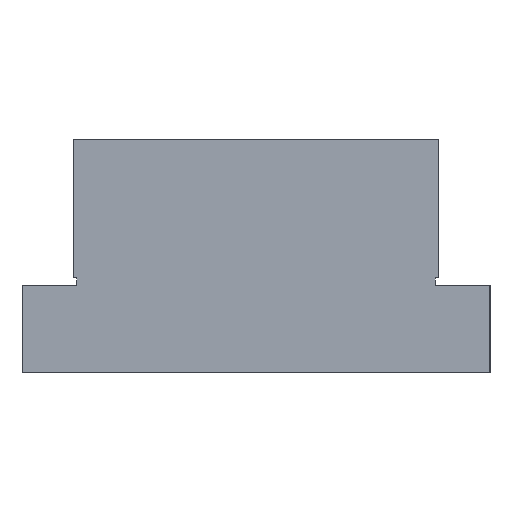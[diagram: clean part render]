
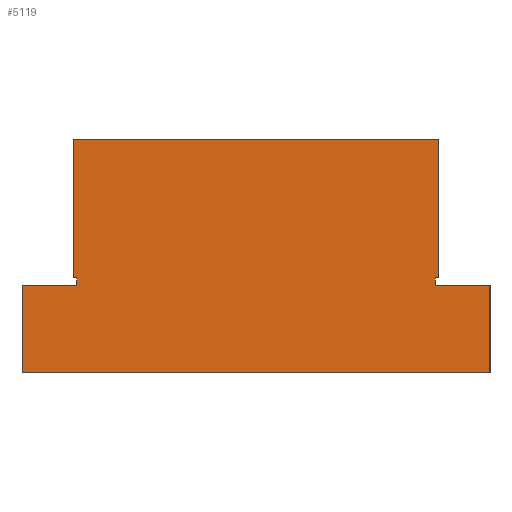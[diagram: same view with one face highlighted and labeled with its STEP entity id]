
A CAD part, left-side view. The second image highlights one B-rep face of the part: STEP entity #5119.
In plain terms, the highlighted planar face has unit normal (-1, 0, 0).
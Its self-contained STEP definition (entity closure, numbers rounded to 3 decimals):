
#19 = CARTESIAN_POINT ( 'NONE',  ( 0., -12.5, 6.5 ) ) ;
#246 = CARTESIAN_POINT ( 'NONE',  ( 0., -12.25, 6. ) ) ;
#320 = CARTESIAN_POINT ( 'NONE',  ( 0., 12.25, 6. ) ) ;
#323 = CARTESIAN_POINT ( 'NONE',  ( 0., 12.5, 0. ) ) ;
#713 = CARTESIAN_POINT ( 'NONE',  ( 0., 16., 0. ) ) ;
#737 = ORIENTED_EDGE ( 'NONE', *, *, #6420, .T. ) ;
#827 = EDGE_CURVE ( 'NONE', #1035, #7745, #8516, .T. ) ;
#832 = VECTOR ( 'NONE', #4642, 1000. ) ;
#885 = CARTESIAN_POINT ( 'NONE',  ( 0., -12.5, 16. ) ) ;
#996 = VERTEX_POINT ( 'NONE', #246 ) ;
#1035 = VERTEX_POINT ( 'NONE', #9297 ) ;
#1209 = LINE ( 'NONE', #3594, #10512 ) ;
#1346 = CARTESIAN_POINT ( 'NONE',  ( 0., 16., 6. ) ) ;
#1461 = DIRECTION ( 'NONE',  ( 0., 0., 1. ) ) ;
#1729 = VECTOR ( 'NONE', #5929, 1000. ) ;
#1824 = CARTESIAN_POINT ( 'NONE',  ( 0., -69.859, 6. ) ) ;
#1844 = ORIENTED_EDGE ( 'NONE', *, *, #2634, .F. ) ;
#2174 = CARTESIAN_POINT ( 'NONE',  ( 0., -16., 0. ) ) ;
#2267 = DIRECTION ( 'NONE',  ( 0., 1., 0. ) ) ;
#2277 = EDGE_CURVE ( 'NONE', #996, #5724, #5948, .T. ) ;
#2448 = LINE ( 'NONE', #1824, #4769 ) ;
#2529 = EDGE_LOOP ( 'NONE', ( #4038, #3561, #2537, #2723, #9264, #2550, #9720, #9187, #10082, #8311, #1844, #737 ) ) ;
#2537 = ORIENTED_EDGE ( 'NONE', *, *, #827, .F. ) ;
#2550 = ORIENTED_EDGE ( 'NONE', *, *, #3529, .T. ) ;
#2572 = LINE ( 'NONE', #19, #9423 ) ;
#2628 = DIRECTION ( 'NONE',  ( 0., -1., 0. ) ) ;
#2634 = EDGE_CURVE ( 'NONE', #6972, #5475, #1209, .T. ) ;
#2723 = ORIENTED_EDGE ( 'NONE', *, *, #6876, .T. ) ;
#2777 = CARTESIAN_POINT ( 'NONE',  ( 0., 12.5, 0. ) ) ;
#2918 = CARTESIAN_POINT ( 'NONE',  ( 0., -12.5, 6.5 ) ) ;
#2942 = DIRECTION ( 'NONE',  ( 0., 0., -1. ) ) ;
#2955 = AXIS2_PLACEMENT_3D ( 'NONE', #2777, #6360, #2942 ) ;
#3077 = VERTEX_POINT ( 'NONE', #885 ) ;
#3221 = VERTEX_POINT ( 'NONE', #7487 ) ;
#3319 = EDGE_CURVE ( 'NONE', #5724, #6211, #2572, .T. ) ;
#3446 = LINE ( 'NONE', #10399, #9920 ) ;
#3529 = EDGE_CURVE ( 'NONE', #4446, #996, #2448, .T. ) ;
#3561 = ORIENTED_EDGE ( 'NONE', *, *, #10788, .T. ) ;
#3594 = CARTESIAN_POINT ( 'NONE',  ( 0., 12.5, 0. ) ) ;
#4038 = ORIENTED_EDGE ( 'NONE', *, *, #6028, .T. ) ;
#4165 = LINE ( 'NONE', #7649, #1729 ) ;
#4180 = DIRECTION ( 'NONE',  ( 0., 0., 1. ) ) ;
#4446 = VERTEX_POINT ( 'NONE', #5926 ) ;
#4642 = DIRECTION ( 'NONE',  ( 0., 0., -1. ) ) ;
#4769 = VECTOR ( 'NONE', #5072, 1000. ) ;
#4813 = DIRECTION ( 'NONE',  ( 0., -1., 0. ) ) ;
#5023 = VECTOR ( 'NONE', #4180, 1000. ) ;
#5072 = DIRECTION ( 'NONE',  ( 0., 1., 0. ) ) ;
#5099 = CARTESIAN_POINT ( 'NONE',  ( 0., -12.5, 0. ) ) ;
#5119 = ADVANCED_FACE ( 'NONE', ( #7169 ), #8136, .F. ) ;
#5149 = DIRECTION ( 'NONE',  ( 0., 0., 1. ) ) ;
#5316 = VERTEX_POINT ( 'NONE', #5443 ) ;
#5443 = CARTESIAN_POINT ( 'NONE',  ( 0., 12.25, 6. ) ) ;
#5475 = VERTEX_POINT ( 'NONE', #7326 ) ;
#5724 = VERTEX_POINT ( 'NONE', #8079 ) ;
#5926 = CARTESIAN_POINT ( 'NONE',  ( 0., -16., 6. ) ) ;
#5929 = DIRECTION ( 'NONE',  ( 0., -1., 0. ) ) ;
#5948 = LINE ( 'NONE', #9597, #5954 ) ;
#5954 = VECTOR ( 'NONE', #5149, 1000. ) ;
#5958 = EDGE_CURVE ( 'NONE', #4446, #9219, #8065, .T. ) ;
#6028 = EDGE_CURVE ( 'NONE', #3221, #5316, #10683, .T. ) ;
#6211 = VERTEX_POINT ( 'NONE', #2918 ) ;
#6360 = DIRECTION ( 'NONE',  ( 1., 0., 0. ) ) ;
#6420 = EDGE_CURVE ( 'NONE', #6972, #3221, #4165, .T. ) ;
#6465 = VECTOR ( 'NONE', #2267, 1000. ) ;
#6726 = EDGE_CURVE ( 'NONE', #5475, #3077, #3446, .T. ) ;
#6749 = CARTESIAN_POINT ( 'NONE',  ( 0., 12.5, 6.5 ) ) ;
#6876 = EDGE_CURVE ( 'NONE', #1035, #9219, #7390, .T. ) ;
#6972 = VERTEX_POINT ( 'NONE', #6749 ) ;
#7169 = FACE_OUTER_BOUND ( 'NONE', #2529, .T. ) ;
#7326 = CARTESIAN_POINT ( 'NONE',  ( 0., 12.5, 16. ) ) ;
#7390 = LINE ( 'NONE', #323, #7921 ) ;
#7407 = LINE ( 'NONE', #10880, #6465 ) ;
#7487 = CARTESIAN_POINT ( 'NONE',  ( 0., 12.25, 6.5 ) ) ;
#7649 = CARTESIAN_POINT ( 'NONE',  ( 0., 12.5, 6.5 ) ) ;
#7745 = VERTEX_POINT ( 'NONE', #1346 ) ;
#7921 = VECTOR ( 'NONE', #4813, 1000. ) ;
#8065 = LINE ( 'NONE', #9774, #9550 ) ;
#8079 = CARTESIAN_POINT ( 'NONE',  ( 0., -12.25, 6.5 ) ) ;
#8123 = DIRECTION ( 'NONE',  ( 0., 0., -1. ) ) ;
#8136 = PLANE ( 'NONE',  #2955 ) ;
#8311 = ORIENTED_EDGE ( 'NONE', *, *, #6726, .F. ) ;
#8516 = LINE ( 'NONE', #713, #5023 ) ;
#8955 = DIRECTION ( 'NONE',  ( 0., 0., 1. ) ) ;
#9187 = ORIENTED_EDGE ( 'NONE', *, *, #3319, .T. ) ;
#9219 = VERTEX_POINT ( 'NONE', #2174 ) ;
#9264 = ORIENTED_EDGE ( 'NONE', *, *, #5958, .F. ) ;
#9297 = CARTESIAN_POINT ( 'NONE',  ( 0., 16., 0. ) ) ;
#9423 = VECTOR ( 'NONE', #2628, 1000. ) ;
#9433 = LINE ( 'NONE', #5099, #11038 ) ;
#9546 = DIRECTION ( 'NONE',  ( 0., -1., 0. ) ) ;
#9550 = VECTOR ( 'NONE', #8123, 1000. ) ;
#9597 = CARTESIAN_POINT ( 'NONE',  ( 0., -12.25, 6. ) ) ;
#9720 = ORIENTED_EDGE ( 'NONE', *, *, #2277, .T. ) ;
#9774 = CARTESIAN_POINT ( 'NONE',  ( 0., -16., 0. ) ) ;
#9920 = VECTOR ( 'NONE', #9546, 1000. ) ;
#10082 = ORIENTED_EDGE ( 'NONE', *, *, #11213, .T. ) ;
#10399 = CARTESIAN_POINT ( 'NONE',  ( 0., 12.5, 16. ) ) ;
#10512 = VECTOR ( 'NONE', #8955, 1000. ) ;
#10683 = LINE ( 'NONE', #320, #832 ) ;
#10788 = EDGE_CURVE ( 'NONE', #5316, #7745, #7407, .T. ) ;
#10880 = CARTESIAN_POINT ( 'NONE',  ( 0., -69.859, 6. ) ) ;
#11038 = VECTOR ( 'NONE', #1461, 1000. ) ;
#11213 = EDGE_CURVE ( 'NONE', #6211, #3077, #9433, .T. ) ;
